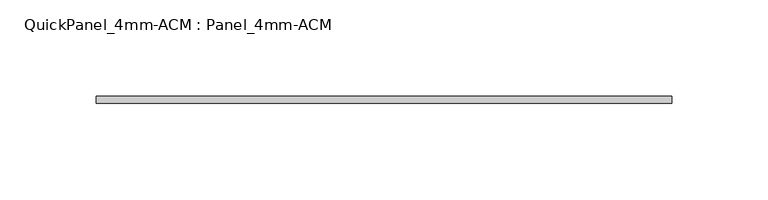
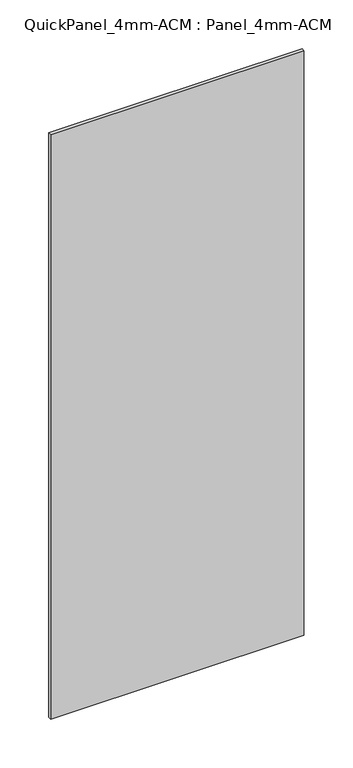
"""IFC4 building model written with IfcOpenShell, lengths in millimetres: plate geometry, QuickPanel_4mm-ACM : Panel_4mm-ACM."""

import ifcopenshell
import ifcopenshell.guid

model = None  # the IFC model being written
_history = None  # IfcOwnerHistory: only IFC2X3 demands one
_inside = {}  # id of a spatial element -> (the spatial element, [elements in it])
_under = {}  # id of a project, library or spatial element -> (it, [spatial elements below it])
_declared = {}  # id of a project -> (the project, [libraries it declares])
_typed = {}  # id of a type object -> (the type object, [elements of that type])
_made_of = {}  # id of a material, layer set ... -> (it, [elements and type objects made of it])


def new_model(schema):
    """Start an empty IFC model of exactly this schema.

    Asked for "IFC4X3", IfcOpenShell would pick the latest addendum, in which some entities
    have other attributes; the version numbers below select the first issue.
    IFC2X3 requires an IfcOwnerHistory on every rooted entity: one is made here for all.
    """
    global model, _history
    if schema == "IFC4X3":
        model = ifcopenshell.file(schema_version=(4, 3, 0, 0))
    else:
        model = ifcopenshell.file(schema=schema)
    _inside.clear()
    _under.clear()
    _declared.clear()
    _typed.clear()
    _made_of.clear()
    _history = None
    if model.schema == "IFC2X3":
        org = make("IfcOrganization", Name="unknown")
        user = make(
            "IfcPersonAndOrganization",
            ThePerson=make("IfcPerson", FamilyName="unknown"),
            TheOrganization=org,
        )
        app = make(
            "IfcApplication",
            ApplicationDeveloper=org,
            Version="unknown",
            ApplicationFullName="unknown",
            ApplicationIdentifier="unknown",
        )
        _history = make(
            "IfcOwnerHistory",
            OwningUser=user,
            OwningApplication=app,
            ChangeAction="ADDED",
            CreationDate=0,
        )
    return model


def make(cls, **values):
    """One entity of the class cls with the attributes given. An attribute that is None is left unset."""
    return model.create_entity(
        cls, **{name: value for name, value in values.items() if value is not None}
    )


def rooted(cls, **values):
    """An entity with a GlobalId (a new one), such as an element, a storey or a relation."""
    return make(cls, GlobalId=ifcopenshell.guid.new(), OwnerHistory=_history, **values)


def si_unit(unit_type, name, prefix=None):
    """IfcSIUnit, for example si_unit("LENGTHUNIT", "METRE", prefix="MILLI")."""
    return make("IfcSIUnit", UnitType=unit_type, Prefix=prefix, Name=name)


def assignment(units):
    """IfcUnitAssignment: the units of a project."""
    return None if units is None else make("IfcUnitAssignment", Units=units)


def point(xyz):
    """IfcCartesianPoint."""
    return None if xyz is None else make("IfcCartesianPoint", Coordinates=xyz)


def direction(xyz):
    """IfcDirection."""
    return None if xyz is None else make("IfcDirection", DirectionRatios=xyz)


def frame(location, z_axis=None, x_axis=None):
    """IfcAxis2Placement3D, a coordinate frame: its origin and axes. An axis left out is left unset."""
    return make(
        "IfcAxis2Placement3D",
        Location=point(location),
        Axis=direction(z_axis),
        RefDirection=direction(x_axis),
    )


def origin():
    """The frame at (0, 0, 0) with its axes left unset."""
    return frame((0.0, 0.0, 0.0))


def origin_with_axes():
    """The frame at (0, 0, 0) with the z axis (0, 0, 1) and the x axis (1, 0, 0) written out."""
    return frame((0.0, 0.0, 0.0), z_axis=(0.0, 0.0, 1.0), x_axis=(1.0, 0.0, 0.0))


def place(relative_to, where):
    """IfcLocalPlacement: puts the frame where relative to a parent placement (None: the world)."""
    return make(
        "IfcLocalPlacement", PlacementRelTo=relative_to, RelativePlacement=where
    )


def context(
    kind, dimensions, precision=None, world=None, true_north=None, identifier=None
):
    """IfcGeometricRepresentationContext, for example the 3D "Model" context."""
    return make(
        "IfcGeometricRepresentationContext",
        ContextIdentifier=identifier,
        ContextType=kind,
        CoordinateSpaceDimension=dimensions,
        Precision=precision,
        WorldCoordinateSystem=world,
        TrueNorth=true_north,
    )


def project(units=None, contexts=None):
    """IfcProject with its units and contexts."""
    return rooted(
        "IfcProject",
        Name="project",
        RepresentationContexts=contexts,
        UnitsInContext=assignment(units),
    )


def spatial(cls, under=None, at=None, **own):
    """A site, building, storey or space (cls), placed at a placement, below another one or the project."""
    s = rooted(cls, ObjectPlacement=at, **own)
    if under is not None:
        _under.setdefault(under.id(), (under, []))[1].append(s)
    return s


def polyline(points):
    """IfcPolyline through the points."""
    return make("IfcPolyline", Points=[point(p) for p in points])


def outline(outer, holes=None, kind="AREA"):
    """IfcArbitraryClosedProfileDef: a profile drawn as a closed curve; with holes, ...WithVoids."""
    if holes is None:
        return make("IfcArbitraryClosedProfileDef", ProfileType=kind, OuterCurve=outer)
    return make(
        "IfcArbitraryProfileDefWithVoids",
        ProfileType=kind,
        OuterCurve=outer,
        InnerCurves=holes,
    )


def extrude(swept, where, along, depth):
    """IfcExtrudedAreaSolid: the profile swept, set in the frame where, extruded along a direction by depth."""
    return make(
        "IfcExtrudedAreaSolid",
        SweptArea=swept,
        Position=where,
        ExtrudedDirection=direction(along),
        Depth=depth,
    )


def shape(context_of_items, identifier, shape_type, items):
    """IfcShapeRepresentation: the items that make up one representation, for example the "Body"."""
    return make(
        "IfcShapeRepresentation",
        ContextOfItems=context_of_items,
        RepresentationIdentifier=identifier,
        RepresentationType=shape_type,
        Items=items,
    )


def source(mapping_origin, context_of_items, identifier, shape_type, items):
    """IfcRepresentationMap: a shape defined once, which mapped items show again and again."""
    return make(
        "IfcRepresentationMap",
        MappingOrigin=mapping_origin,
        MappedRepresentation=shape(context_of_items, identifier, shape_type, items),
    )


def transform(
    local_origin,
    x_axis=None,
    y_axis=None,
    z_axis=None,
    scale=None,
    scale2=None,
    scale3=None,
    uniform=True,
):
    """IfcCartesianTransformationOperator3D, or its non-uniform kind. x_axis, y_axis, z_axis: its Axis1, 2, 3."""
    if uniform:
        return make(
            "IfcCartesianTransformationOperator3D",
            Axis1=direction(x_axis),
            Axis2=direction(y_axis),
            LocalOrigin=point(local_origin),
            Scale=scale,
            Axis3=direction(z_axis),
        )
    return make(
        "IfcCartesianTransformationOperator3DnonUniform",
        Axis1=direction(x_axis),
        Axis2=direction(y_axis),
        LocalOrigin=point(local_origin),
        Scale=scale,
        Axis3=direction(z_axis),
        Scale2=scale2,
        Scale3=scale3,
    )


def mapped(mapping_source, mapping_target):
    """IfcMappedItem: shows the shape of a source again, moved by a transform."""
    return make(
        "IfcMappedItem", MappingSource=mapping_source, MappingTarget=mapping_target
    )


def made_of(thing, what):
    """Note that an element or type object is made of a material, layer set ...; save() writes the relation."""
    if what is not None:
        _made_of.setdefault(what.id(), (what, []))[1].append(thing)
    return thing


def element(
    cls,
    number,
    at=None,
    inside=None,
    cuts=None,
    type_object=None,
    material=None,
    context=None,
    identifier="Body",
    shape_type=None,
    held_by="IfcProductDefinitionShape",
    body=None,
    shapes=None,
    **own,
):
    """One element of the class cls, such as IfcWall. Its Tag is "e" and its number.

    at: its placement. inside: the storey or other place that contains it. cuts: it is an
    opening in that element (IfcRelVoidsElement). A single representation is given by context,
    identifier, shape_type and body (its items); several are given by shapes. held_by: the class
    of the entity that holds the representations. save() writes the other relations.
    """
    e = rooted(cls, Tag="e%d" % number, ObjectPlacement=at, **own)
    if body is not None:
        shapes = [shape(context, identifier, shape_type, body)]
    if shapes is not None:
        e.Representation = make(held_by, Representations=shapes)
    if inside is not None:
        _inside.setdefault(inside.id(), (inside, []))[1].append(e)
    if cuts is not None:
        rooted(
            "IfcRelVoidsElement", RelatingBuildingElement=cuts, RelatedOpeningElement=e
        )
    if type_object is not None:
        _typed.setdefault(type_object.id(), (type_object, []))[1].append(e)
    return made_of(e, material)


def aggregate(whole, parts):
    """IfcRelAggregates: a whole, such as a stair, and the parts it consists of."""
    return rooted("IfcRelAggregates", RelatingObject=whole, RelatedObjects=parts)


def save(model, path):
    """Write the relations noted so far, then the file.

    IfcRelAggregates (storeys below a building ...), IfcRelContainedInSpatialStructure (elements
    in a storey), IfcRelDefinesByType, IfcRelAssociatesMaterial and IfcRelDeclares: one each for
    every whole, place, type object, material and project.
    """
    for whole, parts in _under.values():
        aggregate(whole, parts)
    for where, things in _inside.values():
        rooted(
            "IfcRelContainedInSpatialStructure",
            RelatedElements=things,
            RelatingStructure=where,
        )
    for kind, things in _typed.values():
        rooted("IfcRelDefinesByType", RelatedObjects=things, RelatingType=kind)
    for what, things in _made_of.values():
        rooted("IfcRelAssociatesMaterial", RelatedObjects=things, RelatingMaterial=what)
    for by, libraries in _declared.values():
        rooted("IfcRelDeclares", RelatingContext=by, RelatedDefinitions=libraries)
    model.write(path)


def quickpanel_4mm_acm_panel_4mm_acm_7344fa78(model_context):
    return source(origin(), model_context, "Body", "SweptSolid", [
        extrude(outline(polyline([(-149.9703985, -6.096), (149.9703985, -6.096), (149.9703985, -9.906), (-149.9703985, -9.906), (-149.9703985, -6.096)])), origin_with_axes(), (0.0, 0.0, 1.0), 731.7965616),
    ])


if __name__ == "__main__":
    model = new_model("IFC4")
    model_context = context("Model", 3, world=origin())
    ifc_project = project(units=[si_unit("LENGTHUNIT", "METRE", prefix="MILLI")], contexts=[model_context])
    site = spatial("IfcSite", under=ifc_project)
    building = spatial("IfcBuilding", under=site)
    placement = place(None, origin())
    quickpanel_4mm_acm_panel_4mm_acm_shape = quickpanel_4mm_acm_panel_4mm_acm_7344fa78(model_context)
    element("IfcPlate", 1, ObjectType="QuickPanel_4mm-ACM : Panel_4mm-ACM", at=placement, inside=building, context=model_context, shape_type="MappedRepresentation", body=[
        mapped(quickpanel_4mm_acm_panel_4mm_acm_shape, transform((0.0, 0.0, 0.0), x_axis=(1.0, 0.0, 0.0), y_axis=(0.0, 1.0, 0.0), z_axis=(0.0, 0.0, 1.0))),
    ])
    save(model, "model.ifc")
